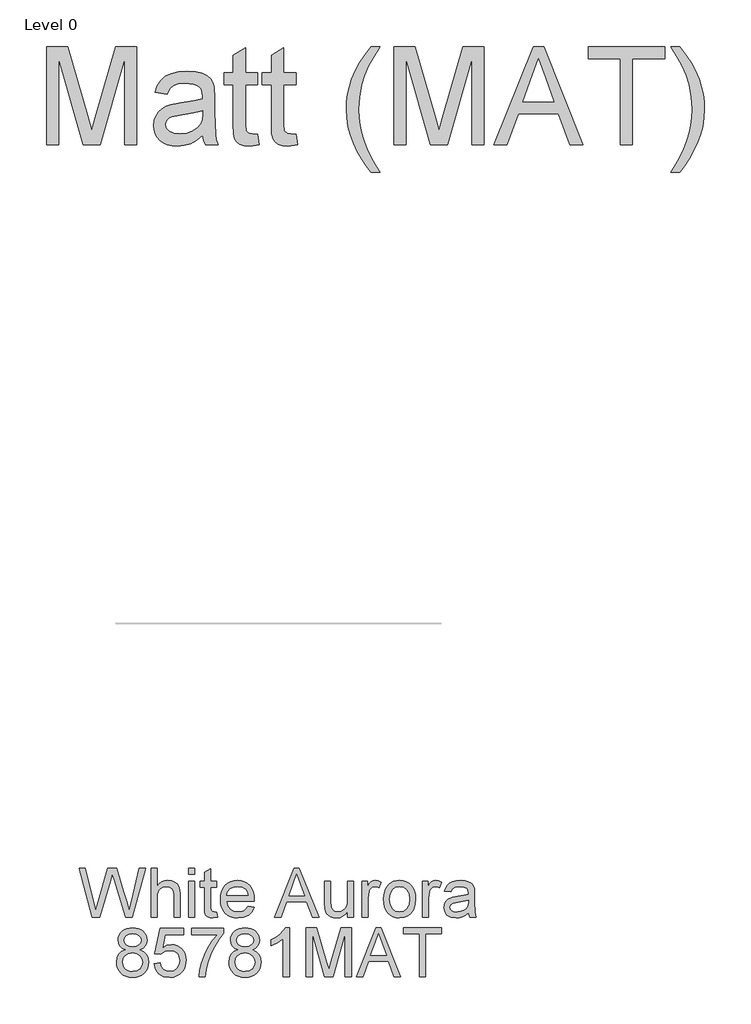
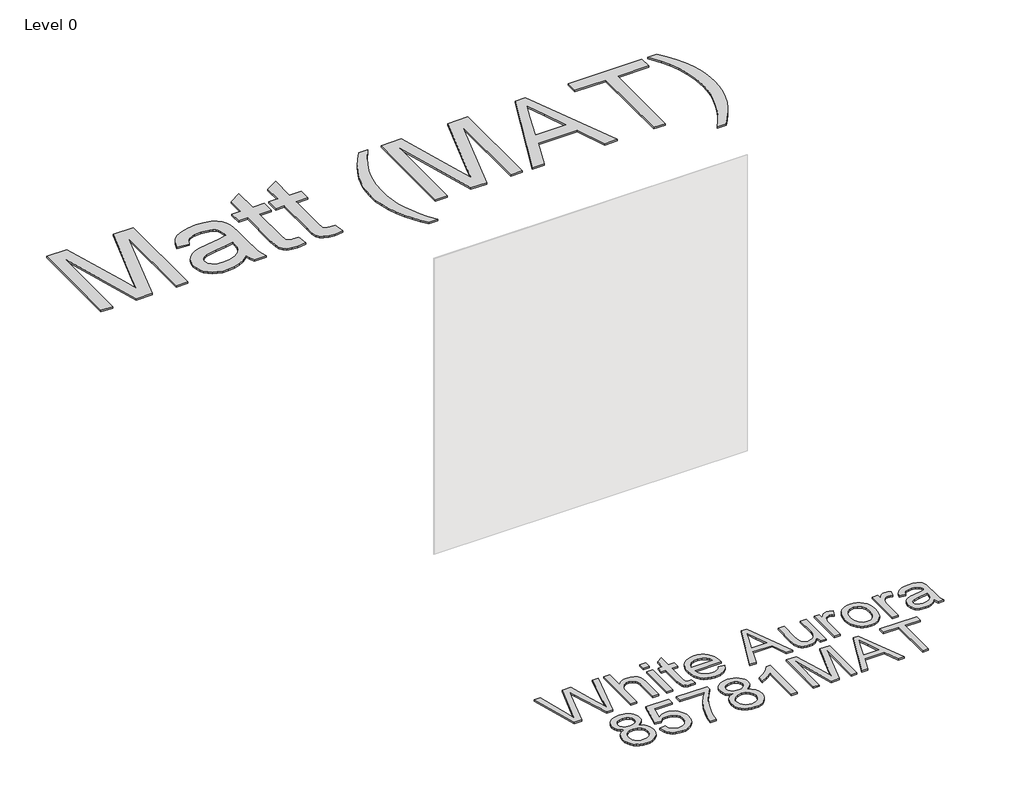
# One storey, part 6 of 9: 2 proxies.
"""IFC4 building model written with IfcOpenShell, lengths in millimetres."""

from ifc_helpers import new_model, si_unit, origin, origin_with_axes, place, context, project, spatial, polyline, outline, extrude, element, save

model = new_model("IFC4")

# Units and contexts
model_context = context("Model", 3, world=origin())
ifc_project = project(units=[si_unit("LENGTHUNIT", "METRE", prefix="MILLI")], contexts=[model_context])

# Site, building, storey
site = spatial("IfcSite", under=ifc_project)
building = spatial("IfcBuilding", under=site)
storey = spatial("IfcBuildingStorey", under=building, Name="Level 0", Elevation=0.0)

# Proxies
placement = place(None, origin())
element("IfcBuildingElementProxy", 1, Name="300mm Arial", ObjectType="300mm Arial", at=placement, inside=storey, context=model_context, shape_type="SweptSolid", body=[
    extrude(outline(polyline([(17404.8610567, -27004.0303751), (17322.676219, -26702.6614447), (17361.5245577, -26702.6614447), (17409.2020642, -26900.7291109), (17423.917344, -26961.8710985), (17439.6626934, -26907.7924452), (17499.4067295, -26702.6614447), (17555.3983691, -26702.6614447), (17598.8084446, -26851.3593471), (17617.4048794, -26906.5416464), (17631.1084837, -26961.8710985), (17645.3823051, -26902.4949445), (17693.4276937, -26702.6614447), (17732.3496088, -26702.6614447), (17650.2383475, -27004.0303751), (17609.9184808, -27004.0303751), (17537.5928806, -26771.5289542), (17527.5129139, -26739.0817622), (17516.1821484, -26778.1508301), (17450.3312713, -27004.0303751), (17404.8610567, -27004.0303751)])), origin_with_axes(), (0.0, 0.0, 1.0), 10.0),
    extrude(outline(polyline([(17765.3118356, -27004.0303751), (17765.3118356, -26702.6614447), (17802.9829519, -26702.6614447), (17802.9829519, -26813.4675016), (17816.8199134, -26797.9520785), (17832.3583292, -26786.8696334), (17849.5981992, -26780.2201663), (17868.5395234, -26778.0036773), (17891.2930248, -26780.4225014), (17910.8459529, -26787.6789738), (17926.2418144, -26799.2028773), (17936.5241161, -26814.4239948), (17942.3182576, -26835.3380862), (17944.249638, -26863.9409114), (17944.249638, -27004.0303751), (17906.5785217, -27004.0303751), (17906.5785217, -26867.8404605), (17903.5802835, -26844.2592246), (17894.5855687, -26828.109205), (17880.0910181, -26818.7833964), (17860.5932723, -26815.6747936), (17844.673179, -26817.771721), (17829.7279729, -26824.0625031), (17817.3487438, -26833.9401347), (17809.1265812, -26846.7976104), (17804.5188592, -26863.8857291), (17802.9829519, -26886.4552895), (17802.9829519, -27004.0303751), (17765.3118356, -27004.0303751)])), origin_with_axes(), (0.0, 0.0, 1.0), 10.0),
    extrude(outline(polyline([(17996.0474229, -26740.332561), (17996.0474229, -26702.6614447), (18033.7185393, -26702.6614447), (18033.7185393, -26740.332561), (17996.0474229, -26740.332561)])), origin_with_axes(), (0.0, 0.0, 1.0), 10.0),
    extrude(outline(polyline([(17996.0474229, -27004.0303751), (17996.0474229, -26782.7125668), (18033.7185393, -26782.7125668), (18033.7185393, -27004.0303751), (17996.0474229, -27004.0303751)])), origin_with_axes(), (0.0, 0.0, 1.0), 10.0),
    extrude(outline(polyline([(18170.2763359, -26972.6132527), (18174.9852254, -27005.1340211), (18146.8054646, -27008.7392647), (18128.7240645, -27007.1757662), (18115.2411894, -27002.4852707), (18105.7130457, -26995.2563895), (18099.49584, -26986.0777338), (18096.0745374, -26970.3139903), (18094.9341033, -26943.3298459), (18094.9341033, -26820.3836831), (18066.680766, -26820.3836831), (18066.680766, -26782.7125668), (18094.9341033, -26782.7125668), (18094.9341033, -26728.9282191), (18132.6052196, -26706.781723), (18132.6052196, -26782.7125668), (18170.2763359, -26782.7125668), (18170.2763359, -26820.3836831), (18132.6052196, -26820.3836831), (18132.6052196, -26942.2261999), (18134.5917823, -26961.6503693), (18141.0297172, -26968.5297626), (18153.8687989, -26971.0681484), (18170.2763359, -26972.6132527)])), origin_with_axes(), (0.0, 0.0, 1.0), 10.0),
    extrude(outline(polyline([(18362.8993485, -26938.1059216), (18399.8347009, -26942.8148111), (18386.5265697, -26970.6450841), (18365.2905815, -26991.4488109), (18336.6049829, -27004.4166512), (18300.9480205, -27008.7392647), (18277.5737183, -27006.8745628), (18256.7469988, -27001.2804572), (18238.4678622, -26991.9569479), (18222.7363084, -26978.9040349), (18210.0857663, -26962.4850016), (18201.0496648, -26943.0631315), (18195.6280039, -26920.6384246), (18193.8207836, -26895.2108809), (18195.646398, -26868.9211139), (18201.1232412, -26845.7491467), (18210.2513132, -26825.6949794), (18223.030614, -26808.7586121), (18238.7207811, -26795.3033281), (18256.5814519, -26785.692411), (18276.6126266, -26779.9258607), (18298.814305, -26778.0036773), (18320.3009128, -26779.9212622), (18339.7319799, -26785.6740169), (18357.1075064, -26795.2619414), (18372.4274922, -26808.6850357), (18384.9331808, -26825.5846148), (18393.8658155, -26845.6019939), (18399.2253963, -26868.7371729), (18401.0119232, -26894.9901518), (18400.791194, -26905.1436948), (18231.4918999, -26905.1436948), (18238.0126082, -26933.3418497), (18253.1601494, -26954.0720002), (18275.0215369, -26966.8191113), (18301.6837845, -26971.0681484), (18321.7333533, -26969.0999797), (18338.6191369, -26963.1954737), (18352.3411353, -26952.9867483), (18362.8993485, -26938.1059216)]), holes=[polyline([(18231.4918999, -26867.4725785), (18363.3408069, -26867.4725785), (18358.2456413, -26847.5701626), (18348.2576451, -26833.3331294), (18326.29509, -26820.0893775), (18298.6671522, -26815.6747936), (18273.2740975, -26819.1972637), (18252.2772326, -26829.764674), (18237.6815144, -26846.2365903), (18231.4918999, -26867.4725785)])]), origin_with_axes(), (0.0, 0.0, 1.0), 10.0),
    extrude(outline(polyline([(18526.0918016, -27004.0303751), (18646.389214, -26702.6614447), (18678.468524, -26702.6614447), (18798.69236, -27004.0303751), (18758.8875281, -27004.0303751), (18724.4537734, -26909.8525844), (18600.2568118, -26909.8525844), (18565.8230571, -27004.0303751), (18526.0918016, -27004.0303751)]), holes=[polyline([(18614.0891748, -26872.181468), (18710.6949868, -26872.181468), (18683.4717191, -26798.0900342), (18662.3552926, -26740.332561), (18643.5933109, -26791.6153111), (18614.0891748, -26872.181468)])]), origin_with_axes(), (0.0, 0.0, 1.0), 10.0),
    extrude(outline(polyline([(18975.4964469, -27004.0303751), (18975.4964469, -26965.9913768), (18961.866419, -26984.6935777), (18945.9923109, -26998.0522927), (18927.8741226, -27006.0675217), (18907.5118542, -27008.7392647), (18889.1637397, -27006.8630665), (18872.0848181, -27001.234472), (18857.7558143, -26992.7731861), (18847.6574536, -26982.3989138), (18836.4370527, -26954.6606114), (18834.2297608, -26919.6382454), (18834.2297608, -26782.7125668), (18871.9008771, -26782.7125668), (18871.9008771, -26901.9063333), (18874.1817454, -26940.3132136), (18879.6723842, -26953.124704), (18889.0809662, -26962.8643799), (18901.7820921, -26969.0172062), (18917.1503625, -26971.0681484), (18933.4015496, -26968.971221), (18948.6042731, -26962.6804389), (18961.139852, -26952.7752161), (18969.3896058, -26939.834967), (18973.9697366, -26922.1122518), (18975.4964469, -26897.8596313), (18975.4964469, -26782.7125668), (19013.1675632, -26782.7125668), (19013.1675632, -27004.0303751), (18975.4964469, -27004.0303751)])), origin_with_axes(), (0.0, 0.0, 1.0), 10.0),
    extrude(outline(polyline([(19064.9653481, -27004.0303751), (19064.9653481, -26782.7125668), (19097.9275749, -26782.7125668), (19097.9275749, -26815.4540644), (19110.1044689, -26796.4713534), (19121.3248698, -26785.2877408), (19132.5820588, -26779.8246932), (19144.8693175, -26778.0036773), (19163.6312992, -26780.909945), (19182.6875866, -26789.6287483), (19170.1060224, -26823.4003155), (19156.8622705, -26817.6061741), (19143.6185187, -26815.6747936), (19132.3705267, -26817.5325977), (19122.3181512, -26823.1060099), (19114.1971561, -26831.971966), (19108.7433056, -26843.7074016), (19104.1631747, -26864.7502517), (19102.6364644, -26887.7060882), (19102.6364644, -27004.0303751), (19064.9653481, -27004.0303751)])), origin_with_axes(), (0.0, 0.0, 1.0), 10.0),
    extrude(outline(polyline([(19196.8142552, -26893.371471), (19198.8514018, -26864.708865), (19204.9628414, -26840.0101876), (19215.1485741, -26819.2754386), (19229.4086, -26802.5046182), (19243.7651948, -26791.7854565), (19259.6117118, -26784.1289125), (19276.9481508, -26779.5349861), (19295.7745119, -26778.0036773), (19316.5575454, -26779.8683791), (19335.3494175, -26785.4624847), (19352.1501284, -26794.7859941), (19366.959678, -26807.8389071), (19379.0469008, -26824.1797655), (19387.6806314, -26843.3671108), (19392.8608697, -26865.400943), (19394.5876158, -26890.2812622), (19391.5341953, -26928.3386546), (19382.3739336, -26957.3093617), (19367.3735452, -26979.0052024), (19346.7997446, -26995.2379954), (19322.3631831, -27005.3639474), (19295.7745119, -27008.7392647), (19274.6879758, -27006.8814606), (19255.7213597, -27001.3080484), (19238.8746636, -26992.019028), (19224.1478874, -26979.0143994), (19212.1894233, -26962.514892), (19203.6476633, -26942.7412347), (19198.5226072, -26919.6934277), (19196.8142552, -26893.371471)]), holes=[polyline([(19234.4853715, -26893.2978946), (19238.8447732, -26927.3913585), (19251.9229781, -26951.6807672), (19271.6046648, -26966.2213031), (19295.7745119, -26971.0681484), (19319.8339944, -26966.1937119), (19339.4788929, -26951.5704026), (19352.5570979, -26926.9590971), (19356.9164995, -26892.1206722), (19352.5295067, -26859.0204897), (19339.3685283, -26835.0621747), (19319.6960386, -26820.5216389), (19295.7745119, -26815.6747936), (19271.6046648, -26820.5032448), (19251.9229781, -26834.9885983), (19238.8447732, -26859.2228248), (19234.4853715, -26893.2978946)])]), origin_with_axes(), (0.0, 0.0, 1.0), 10.0),
    extrude(outline(polyline([(19436.9676217, -27004.0303751), (19436.9676217, -26782.7125668), (19469.9298484, -26782.7125668), (19469.9298484, -26815.4540644), (19482.1067425, -26796.4713534), (19493.3271433, -26785.2877408), (19504.5843324, -26779.8246932), (19516.871591, -26778.0036773), (19535.6335728, -26780.909945), (19554.6898601, -26789.6287483), (19542.1082959, -26823.4003155), (19528.8645441, -26817.6061741), (19515.6207922, -26815.6747936), (19504.3728002, -26817.5325977), (19494.3204247, -26823.1060099), (19486.1994297, -26831.971966), (19480.7455791, -26843.7074016), (19476.1654482, -26864.7502517), (19474.638738, -26887.7060882), (19474.638738, -27004.0303751), (19436.9676217, -27004.0303751)])), origin_with_axes(), (0.0, 0.0, 1.0), 10.0),
    extrude(outline(polyline([(19719.500994, -26975.7770379), (19701.5023673, -26991.2096876), (19682.9703118, -27001.3080484), (19663.4817631, -27006.8814606), (19642.613657, -27008.7392647), (19611.1321552, -27004.2694984), (19587.9096043, -26990.8601997), (19573.5897976, -26970.4979313), (19568.8165287, -26945.1692559), (19570.6191505, -26929.5526652), (19576.0270158, -26915.3708143), (19584.3687401, -26903.2307084), (19594.9729386, -26893.739353), (19621.3500776, -26881.3785179), (19653.9444224, -26875.7131352), (19692.4616673, -26869.7534469), (19719.2802648, -26862.763689), (19719.500994, -26854.3759795), (19716.9074259, -26837.5637723), (19709.1267217, -26826.5641006), (19691.7259033, -26818.3971204), (19667.4824798, -26815.6747936), (19645.0416781, -26817.4866124), (19629.3699051, -26822.9220689), (19618.6829332, -26832.9744444), (19611.1965346, -26848.6370204), (19573.5254183, -26843.9281308), (19580.0645207, -26823.3267391), (19589.8225907, -26807.1399313), (19603.710136, -26794.7607022), (19622.6376646, -26785.5820464), (19645.7866392, -26779.8982696), (19672.3385222, -26778.0036773), (19697.8051533, -26779.6775404), (19717.9926778, -26784.6991296), (19733.2137953, -26792.2499075), (19743.7812056, -26801.5113368), (19750.7893576, -26812.9616639), (19755.3327003, -26827.0791354), (19757.1721103, -26860.0413622), (19757.1721103, -26906.9095284), (19759.0850966, -26972.3557353), (19766.5898893, -27004.0303751), (19728.918773, -27004.0303751), (19719.500994, -26975.7770379)]), holes=[polyline([(19719.500994, -26900.4348053), (19658.7268883, -26911.9862999), (19626.3164846, -26918.093141), (19611.637993, -26928.0259549), (19606.487645, -26942.5205055), (19609.2927452, -26953.7225123), (19617.7080459, -26962.9011681), (19631.549606, -26969.0264033), (19650.6334845, -26971.0681484), (19670.8669942, -26968.8148711), (19688.7460592, -26962.0550395), (19703.2406098, -26952.0946345), (19713.3205764, -26940.2396372), (19717.7903427, -26928.0259549), (19719.2802648, -26911.1033831), (19719.500994, -26900.4348053)])]), origin_with_axes(), (0.0, 0.0, 1.0), 10.0),
    extrude(outline(polyline([(17608.2998, -27203.9664724), (17588.1306696, -27194.0336586), (17573.9764099, -27180.5691775), (17565.6162915, -27163.8489409), (17562.8295854, -27144.14886), (17564.3470987, -27128.7851882), (17568.8996383, -27114.6999063), (17576.4872045, -27101.8930143), (17587.1097971, -27090.3645123), (17600.2569799, -27080.8363686), (17615.4183166, -27074.0305517), (17651.7834519, -27068.5858982), (17688.3693163, -27074.1593104), (17703.6961999, -27081.1260757), (17717.0457178, -27090.8795471), (17727.8614485, -27102.6333769), (17735.5869704, -27115.6012172), (17740.2222835, -27129.7830681), (17741.7673879, -27145.1789296), (17739.01747, -27164.244414), (17730.7677162, -27180.6795421), (17716.9261562, -27194.0612497), (17697.4008193, -27203.9664724), (17720.586582, -27215.9134402), (17737.4631685, -27233.5073966), (17747.7546674, -27255.9022131), (17751.185167, -27282.251761), (17749.4837127, -27301.0413339), (17744.37935, -27318.2674083), (17735.8720789, -27333.9299843), (17723.9618993, -27348.0290617), (17709.2742107, -27359.6817239), (17692.4344123, -27368.0050541), (17673.4425043, -27372.9990522), (17652.2984867, -27374.6637182), (17631.154469, -27372.9921544), (17612.162561, -27367.9774629), (17595.3227627, -27359.6196439), (17580.635074, -27347.9186971), (17568.7248944, -27333.7207514), (17560.2176233, -27317.8719352), (17555.1132606, -27300.3722485), (17553.4118063, -27281.2216914), (17556.9802617, -27253.851271), (17567.6856278, -27231.3368929), (17584.9760815, -27214.4511093), (17608.2998, -27203.9664724)]), holes=[polyline([(17591.0829227, -27279.8973162), (17597.3737048, -27308.2610181), (17606.083311, -27320.4287151), (17619.6305655, -27329.4878092), (17635.8541615, -27335.1164037), (17652.5927922, -27336.9926019), (17678.2341673, -27333.0470675), (17697.4743957, -27321.2104643), (17709.5041369, -27303.2854141), (17713.5140507, -27281.0745386), (17709.3753782, -27258.4865841), (17696.9593609, -27240.1660608), (17677.2776741, -27228.0259549), (17651.3419935, -27223.979253), (17626.0593033, -27227.9707726), (17607.012213, -27239.9453316), (17595.0652453, -27257.916367), (17591.0829227, -27279.8973162)]), polyline([(17600.5007017, -27145.252506), (17603.8392308, -27161.6968312), (17613.8548182, -27174.8302184), (17630.2531581, -27183.4386571), (17652.739945, -27186.3081367), (17674.7025002, -27183.4570512), (17690.8525197, -27174.9037948), (17700.7853336, -27162.211866), (17704.0962716, -27146.9447632), (17700.674969, -27131.0982462), (17690.4110614, -27117.9924502), (17674.0403126, -27109.1908734), (17652.2984867, -27106.2570145), (17630.418705, -27109.1264941), (17614.0755474, -27117.7349328), (17603.8944131, -27130.3532852), (17600.5007017, -27145.252506)])]), origin_with_axes(), (0.0, 0.0, 1.0), 10.0),
    extrude(outline(polyline([(17784.1473937, -27289.9037065), (17821.81851, -27285.194817), (17828.7346915, -27307.8103626), (17840.801221, -27324.0063675), (17857.9629161, -27333.7460433), (17880.1645945, -27336.9926019), (17907.1671329, -27332.4768504), (17927.4006426, -27318.9295959), (17940.0373892, -27297.914337), (17944.249638, -27270.994572), (17940.3041036, -27245.6475025), (17928.4675004, -27226.2601213), (17908.6478579, -27213.9544686), (17880.7532057, -27209.8525844), (17862.4786675, -27211.4896592), (17847.6806143, -27216.4008839), (17826.5273996, -27233.397032), (17788.8562833, -27228.6881425), (17821.81851, -27073.2947877), (17967.7940857, -27073.2947877), (17967.7940857, -27110.9659041), (17852.2791392, -27110.9659041), (17836.0923314, -27193.9600822), (17863.0028994, -27177.6261216), (17891.2010543, -27172.181468), (17909.5491688, -27173.8691267), (17926.4073613, -27178.9321027), (17941.7756316, -27187.3703959), (17955.6539799, -27199.1840065), (17967.1456937, -27213.650966), (17975.3540607, -27230.0493059), (17980.2790809, -27248.3790263), (17981.9207543, -27268.6401272), (17976.0162483, -27306.3112435), (17968.6356158, -27323.1050566), (17958.3027302, -27338.5377063), (17942.6493513, -27354.3428365), (17924.3840103, -27365.6322152), (17903.5067071, -27372.4058424), (17880.0174417, -27374.6637182), (17843.01771, -27368.8603797), (17827.3390392, -27361.6062066), (17813.5411651, -27351.4503643), (17802.0609476, -27338.8986905), (17793.3352466, -27324.4570229), (17784.1473937, -27289.9037065)])), origin_with_axes(), (0.0, 0.0, 1.0), 10.0),
    extrude(outline(polyline([(18014.8829811, -27110.9659041), (18014.8829811, -27073.2947877), (18212.6563417, -27073.2947877), (18212.6563417, -27103.7554169), (18184.4673838, -27139.4307734), (18156.5543374, -27184.7998205), (18131.9338349, -27235.7238857), (18113.6225086, -27288.0642965), (18104.6461879, -27327.2253349), (18099.6429928, -27369.9548287), (18061.9718765, -27369.9548287), (18066.0461696, -27331.1248841), (18076.9446737, -27284.9740878), (18094.3730832, -27236.0549795), (18118.0370925, -27188.9200988), (18145.6650304, -27146.3101667), (18174.9852254, -27110.9659041), (18014.8829811, -27110.9659041)])), origin_with_axes(), (0.0, 0.0, 1.0), 10.0),
    extrude(outline(polyline([(18300.5065622, -27203.9664724), (18280.3374318, -27194.0336586), (18266.183172, -27180.5691775), (18257.8230537, -27163.8489409), (18255.0363476, -27144.14886), (18256.5538608, -27128.7851882), (18261.1064005, -27114.6999063), (18268.6939666, -27101.8930143), (18279.3165592, -27090.3645123), (18292.463742, -27080.8363686), (18307.6250788, -27074.0305517), (18343.990214, -27068.5858982), (18380.5760784, -27074.1593104), (18395.902962, -27081.1260757), (18409.2524799, -27090.8795471), (18420.0682106, -27102.6333769), (18427.7937325, -27115.6012172), (18432.4290456, -27129.7830681), (18433.97415, -27145.1789296), (18431.2242321, -27164.244414), (18422.9744783, -27180.6795421), (18409.1329183, -27194.0612497), (18389.6075814, -27203.9664724), (18412.7933441, -27215.9134402), (18429.6699307, -27233.5073966), (18439.9614295, -27255.9022131), (18443.3919291, -27282.251761), (18441.6904749, -27301.0413339), (18436.5861122, -27318.2674083), (18428.078841, -27333.9299843), (18416.1686614, -27348.0290617), (18401.4809728, -27359.6817239), (18384.6411745, -27368.0050541), (18365.6492665, -27372.9990522), (18344.5052488, -27374.6637182), (18323.3612311, -27372.9921544), (18304.3693231, -27367.9774629), (18287.5295248, -27359.6196439), (18272.8418361, -27347.9186971), (18260.9316565, -27333.7207514), (18252.4243854, -27317.8719352), (18247.3200227, -27300.3722485), (18245.6185685, -27281.2216914), (18249.1870238, -27253.851271), (18259.8923899, -27231.3368929), (18277.1828437, -27214.4511093), (18300.5065622, -27203.9664724)]), holes=[polyline([(18283.2896848, -27279.8973162), (18289.5804669, -27308.2610181), (18298.2900731, -27320.4287151), (18311.8373276, -27329.4878092), (18328.0609236, -27335.1164037), (18344.7995544, -27336.9926019), (18370.4409294, -27333.0470675), (18389.6811578, -27321.2104643), (18401.710899, -27303.2854141), (18405.7208128, -27281.0745386), (18401.5821403, -27258.4865841), (18389.166123, -27240.1660608), (18369.4844363, -27228.0259549), (18343.5487556, -27223.979253), (18318.2660655, -27227.9707726), (18299.2189752, -27239.9453316), (18287.2720074, -27257.916367), (18283.2896848, -27279.8973162)]), polyline([(18292.7074639, -27145.252506), (18296.045993, -27161.6968312), (18306.0615803, -27174.8302184), (18322.4599202, -27183.4386571), (18344.9467072, -27186.3081367), (18366.9092623, -27183.4570512), (18383.0592819, -27174.9037948), (18392.9920957, -27162.211866), (18396.3030337, -27146.9447632), (18392.8817311, -27131.0982462), (18382.6178235, -27117.9924502), (18366.2470747, -27109.1908734), (18344.5052488, -27106.2570145), (18322.6254671, -27109.1264941), (18306.2823095, -27117.7349328), (18296.1011753, -27130.3532852), (18292.7074639, -27145.252506)])]), origin_with_axes(), (0.0, 0.0, 1.0), 10.0),
    extrude(outline(polyline([(18617.620842, -27369.9548287), (18579.9497257, -27369.9548287), (18579.9497257, -27135.0989629), (18544.2651722, -27160.5196088), (18504.6074931, -27179.539108), (18504.6074931, -27143.9281308), (18534.1944025, -27127.8332935), (18559.8265806, -27108.6850357), (18580.0324991, -27088.3227672), (18593.3406303, -27068.5858982), (18617.620842, -27068.5858982), (18617.620842, -27369.9548287)])), origin_with_axes(), (0.0, 0.0, 1.0), 10.0),
    extrude(outline(polyline([(18721.2164118, -27369.9548287), (18721.2164118, -27068.5858982), (18785.8164902, -27068.5858982), (18847.6206654, -27281.0009622), (18860.1286532, -27325.3675308), (18873.5931342, -27277.3221423), (18934.220087, -27068.5858982), (18999.0408946, -27068.5858982), (18999.0408946, -27369.9548287), (18961.3697783, -27369.9548287), (18961.3697783, -27106.2570145), (18885.6596637, -27369.9548287), (18834.6712192, -27369.9548287), (18758.8875281, -27106.2570145), (18758.8875281, -27369.9548287), (18721.2164118, -27369.9548287)])), origin_with_axes(), (0.0, 0.0, 1.0), 10.0),
    extrude(outline(polyline([(19029.9429822, -27369.9548287), (19150.2403946, -27068.5858982), (19182.3197046, -27068.5858982), (19302.5435406, -27369.9548287), (19262.7387087, -27369.9548287), (19228.304954, -27275.7770379), (19104.1079924, -27275.7770379), (19069.6742377, -27369.9548287), (19029.9429822, -27369.9548287)]), holes=[polyline([(19117.9403554, -27238.1059216), (19214.5461674, -27238.1059216), (19187.3228997, -27164.0144878), (19166.2064732, -27106.2570145), (19147.4444915, -27157.5397646), (19117.9403554, -27238.1059216)])]), origin_with_axes(), (0.0, 0.0, 1.0), 10.0),
    extrude(outline(polyline([(19418.1320635, -27369.9548287), (19418.1320635, -27106.2570145), (19319.2453832, -27106.2570145), (19319.2453832, -27068.5858982), (19554.6898601, -27068.5858982), (19554.6898601, -27106.2570145), (19455.8031798, -27106.2570145), (19455.8031798, -27369.9548287), (19418.1320635, -27369.9548287)])), origin_with_axes(), (0.0, 0.0, 1.0), 10.0),
])
element("IfcBuildingElementProxy", 2, Name="600mm Arial", ObjectType="600mm Arial", at=placement, inside=storey, context=model_context, shape_type="SweptSolid", body=[
    extrude(outline(polyline([(17122.5368148, -22251.0419285), (17122.5368148, -21648.3040676), (17251.7369715, -21648.3040676), (17375.3453218, -22073.1341956), (17400.3612975, -22161.8673328), (17427.2902596, -22065.7765557), (17548.5441652, -21648.3040676), (17678.1857803, -21648.3040676), (17678.1857803, -22251.0419285), (17602.8435477, -22251.0419285), (17602.8435477, -21723.6463002), (17451.4233184, -22251.0419285), (17349.4464294, -22251.0419285), (17197.8790474, -21723.6463002), (17197.8790474, -22251.0419285), (17122.5368148, -22251.0419285)])), origin_with_axes(), (0.0, 0.0, 1.0), 10.0),
    extrude(outline(polyline([(18083.1502806, -22194.535254), (18047.1530273, -22225.4005534), (18010.0889163, -22245.5972749), (17971.1118189, -22256.7440994), (17929.3756066, -22260.4597075), (17895.8293671, -22258.2248244), (17866.4126031, -22251.5201751), (17841.1253145, -22240.3457595), (17819.9675012, -22224.7015776), (17803.2610601, -22205.5809109), (17791.3278879, -22183.9770407), (17784.1679846, -22159.8899671), (17781.7813501, -22133.31969), (17785.3865937, -22102.0865086), (17796.2023243, -22073.7228068), (17812.8857728, -22049.4425951), (17834.0941698, -22030.4598842), (17859.018175, -22016.1124863), (17886.8484479, -22005.7382141), (17952.0371375, -21994.4074486), (18029.0716273, -21982.488072), (18082.7088222, -21968.5085562), (18083.1502806, -21951.7331372), (18077.9631444, -21918.1087228), (18071.4792243, -21905.6559173), (18062.401736, -21896.1093795), (18046.7115689, -21886.5812358), (18027.6000993, -21879.7754189), (17979.1132523, -21874.3307654), (17934.2316489, -21877.9544031), (17902.8881029, -21888.825316), (17881.514159, -21908.9300671), (17866.5413618, -21940.2552189), (17791.1991292, -21930.8374399), (17804.2773341, -21889.6346564), (17823.793474, -21857.2610408), (17851.5685646, -21832.5025826), (17889.4236219, -21814.145271), (17935.721571, -21802.7777173), (17988.825337, -21798.9885328), (18039.7585992, -21802.336259), (18080.1336482, -21812.3794374), (18110.5758833, -21827.4809933), (18131.7107039, -21846.0038518), (18145.7270079, -21868.904506), (18154.8136932, -21897.1394491), (18158.4925132, -21963.0639026), (18158.4925132, -22056.800235), (18162.3184859, -22187.6926489), (18167.9838687, -22220.0478704), (18177.3280713, -22251.0419285), (18101.9858387, -22251.0419285), (18089.9193093, -22224.8487304), (18083.1502806, -22194.535254)]), holes=[polyline([(18083.1502806, -22043.8507888), (18032.529718, -22056.3955648), (17961.6020694, -22066.9537781), (17896.7812618, -22079.1674603), (17879.9138723, -22087.5183816), (17867.4242786, -22099.0330881), (17859.6987567, -22112.8286629), (17857.1235827, -22128.0221893), (17862.7337832, -22150.4262028), (17879.5643844, -22168.7835143), (17907.2475046, -22181.0339848), (17945.4152616, -22185.1174749), (17985.882281, -22180.6109205), (18021.640411, -22167.0912572), (18050.6295122, -22147.1704471), (18070.7894455, -22123.4604525), (18079.728978, -22099.0330881), (18082.7088222, -22065.1879445), (18083.1502806, -22043.8507888)])]), origin_with_axes(), (0.0, 0.0, 1.0), 10.0),
    extrude(outline(polyline([(18422.1903273, -22188.2076837), (18431.6081064, -22253.2492204), (18375.2485847, -22260.4597075), (18339.0857846, -22257.3327106), (18312.1200344, -22247.9517197), (18293.063747, -22233.4939573), (18280.6293356, -22215.1366457), (18273.7867305, -22183.6091588), (18271.5058621, -22129.6408701), (18271.5058621, -21883.7485445), (18214.9991876, -21883.7485445), (18214.9991876, -21808.4063119), (18271.5058621, -21808.4063119), (18271.5058621, -21700.8376165), (18346.8480947, -21656.5446243), (18346.8480947, -21808.4063119), (18422.1903273, -21808.4063119), (18422.1903273, -21883.7485445), (18346.8480947, -21883.7485445), (18346.8480947, -22127.4335781), (18350.8212203, -22166.2819168), (18363.6970901, -22180.0407034), (18374.568003, -22183.848282), (18389.3752533, -22185.1174749), (18422.1903273, -22188.2076837)])), origin_with_axes(), (0.0, 0.0, 1.0), 10.0),
    extrude(outline(polyline([(18657.6348042, -22188.2076837), (18667.0525833, -22253.2492204), (18610.6930616, -22260.4597075), (18574.5302615, -22257.3327106), (18547.5645113, -22247.9517197), (18528.5082239, -22233.4939573), (18516.0738125, -22215.1366457), (18509.2312074, -22183.6091588), (18506.950339, -22129.6408701), (18506.950339, -21883.7485445), (18450.4436645, -21883.7485445), (18450.4436645, -21808.4063119), (18506.950339, -21808.4063119), (18506.950339, -21700.8376165), (18582.2925716, -21656.5446243), (18582.2925716, -21808.4063119), (18657.6348042, -21808.4063119), (18657.6348042, -21883.7485445), (18582.2925716, -21883.7485445), (18582.2925716, -22127.4335781), (18586.2656972, -22166.2819168), (18599.141567, -22180.0407034), (18610.01248, -22183.848282), (18624.8197303, -22185.1174749), (18657.6348042, -22188.2076837)])), origin_with_axes(), (0.0, 0.0, 1.0), 10.0),
    extrude(outline(polyline([(19119.105979, -22420.5619518), (19088.691335, -22381.2077754), (19060.7231063, -22338.6346315), (19035.2012929, -22292.8425202), (19012.1258948, -22243.8314414), (18993.0052281, -22192.7510263), (18979.347609, -22140.7509063), (18971.1530376, -22087.8310813), (18968.4215138, -22033.9915513), (18970.4632588, -21986.6727297), (18976.5884941, -21940.3655835), (18986.7972194, -21895.0701129), (19001.0894349, -21850.7863177), (19022.8128667, -21800.0002083), (19049.7234347, -21749.3244634), (19081.8211388, -21698.7590832), (19119.105979, -21648.3040676), (19175.6126534, -21648.3040676), (19131.282873, -21719.930692), (19105.1264632, -21767.6449868), (19081.0669807, -21824.2988141), (19062.7464573, -21883.3070861), (19048.5094241, -21958.6861069), (19043.7637464, -22034.4330097), (19045.8238855, -22082.7313171), (19052.0043031, -22131.0204275), (19062.3049989, -22179.3003409), (19076.7259731, -22227.5710572), (19095.2672257, -22275.8325764), (19117.9287566, -22324.0848986), (19144.7105658, -22372.3280238), (19175.6126534, -22420.5619518), (19119.105979, -22420.5619518)])), origin_with_axes(), (0.0, 0.0, 1.0), 10.0),
    extrude(outline(polyline([(19260.3726651, -22251.0419285), (19260.3726651, -21648.3040676), (19389.5728218, -21648.3040676), (19513.1811722, -22073.1341956), (19538.1971479, -22161.8673328), (19565.1261099, -22065.7765557), (19686.3800155, -21648.3040676), (19816.0216306, -21648.3040676), (19816.0216306, -22251.0419285), (19740.679398, -22251.0419285), (19740.679398, -21723.6463002), (19589.2591688, -22251.0419285), (19487.2822798, -22251.0419285), (19335.7148977, -21723.6463002), (19335.7148977, -22251.0419285), (19260.3726651, -22251.0419285)])), origin_with_axes(), (0.0, 0.0, 1.0), 10.0),
    extrude(outline(polyline([(19877.8258058, -22251.0419285), (20118.4206307, -21648.3040676), (20182.5792506, -21648.3040676), (20423.0269227, -22251.0419285), (20343.4172589, -22251.0419285), (20274.5497494, -22062.6863469), (20026.1558263, -22062.6863469), (19957.2883168, -22251.0419285), (19877.8258058, -22251.0419285)]), holes=[polyline([(20053.8205523, -21987.3441143), (20247.0321762, -21987.3441143), (20192.5856409, -21839.1612467), (20150.3527879, -21723.6463002), (20112.8288244, -21826.2118004), (20053.8205523, -21987.3441143)])]), origin_with_axes(), (0.0, 0.0, 1.0), 10.0),
    extrude(outline(polyline([(20654.2039685, -22251.0419285), (20654.2039685, -21723.6463002), (20456.4306078, -21723.6463002), (20456.4306078, -21648.3040676), (20927.3195617, -21648.3040676), (20927.3195617, -21723.6463002), (20729.5462011, -21723.6463002), (20729.5462011, -22251.0419285), (20654.2039685, -22251.0419285)])), origin_with_axes(), (0.0, 0.0, 1.0), 10.0),
    extrude(outline(polyline([(21021.4973524, -22420.5619518), (20964.990678, -22420.5619518), (20995.8927656, -22372.3280238), (21022.6745748, -22324.0848986), (21045.3361057, -22275.8325764), (21063.8773583, -22227.5710572), (21078.2983325, -22179.3003409), (21088.5990284, -22131.0204275), (21094.7794459, -22082.7313171), (21096.8395851, -22034.4330097), (21092.0939073, -21959.2379299), (21077.8568741, -21884.6314613), (21059.8674445, -21825.5128246), (21035.9183267, -21768.8222092), (21009.6515522, -21720.5928796), (20964.990678, -21648.3040676), (21021.4973524, -21648.3040676), (21058.7821927, -21698.7590832), (21090.8798967, -21749.3244634), (21117.7904647, -21800.0002083), (21139.5138965, -21850.7863177), (21153.806112, -21895.0701129), (21164.0148374, -21940.3655835), (21170.1400726, -21986.6727297), (21172.1818177, -22033.9915513), (21169.4364983, -22087.8310813), (21161.2005401, -22140.7509063), (21147.4739432, -22192.7510263), (21128.2567074, -22243.8314414), (21105.1123314, -22292.8425202), (21079.6043136, -22338.6346315), (21051.7326539, -22381.2077754), (21021.4973524, -22420.5619518)])), origin_with_axes(), (0.0, 0.0, 1.0), 10.0),
])

save(model, "model.ifc")
